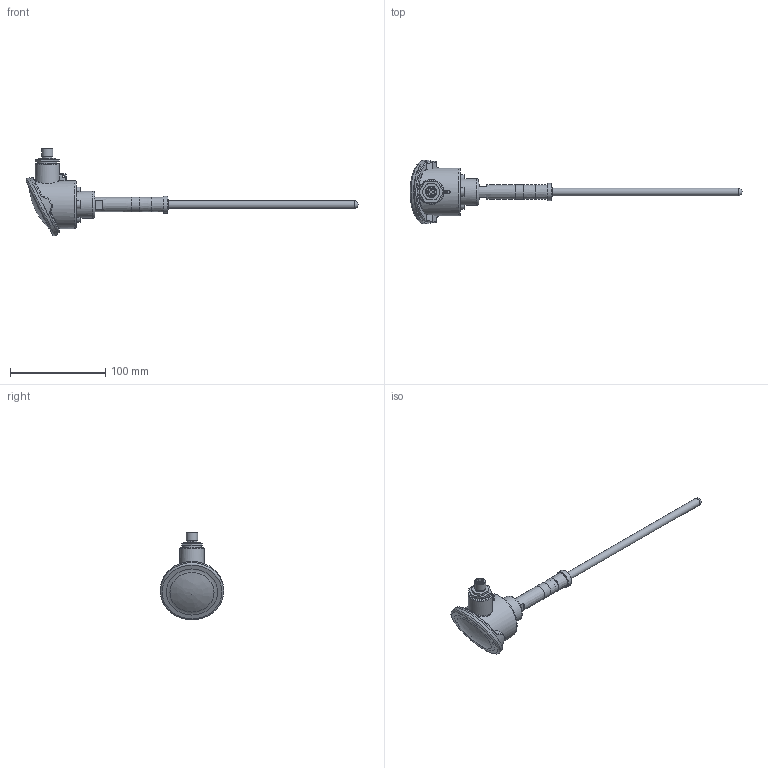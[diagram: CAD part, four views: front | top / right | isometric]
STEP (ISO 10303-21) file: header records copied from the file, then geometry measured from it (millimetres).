
FILE_DESCRIPTION(/* description */ ('Unknown'),/* implementation_level */ '2;1');
FILE_NAME(/* name */ 'TCR6-1120.XXXX.X110.X61X.0200',/* time_stamp */ '2020-07-24T11:47:47+02:00',/* author */ ('Unknown'),/* organization */ ('Unknown'),/* preprocessor_version */ 'ST-DEVELOPER v16.7',/* originating_system */ 'DEX',/* authorisation */ $);
FILE_SCHEMA (('AUTOMOTIVE_DESIGN {1 0 10303 214 3 1 1}'));
Length unit declared in the file: millimetre
Products named in the file (1): Part2
Bounding box: 349.35 x 67 x 92.39 mm (x, y, z)
Volume: 64133.4 mm3; surface area: 46910.9 mm2
Topology: 4 solids, 6 shells, 186 faces, 430 edges, 282 vertices
Faces by surface type: plane 78, cylinder 53, bspline 18, torus 18, cone 14, sphere 5
Full cylindrical faces by diameter (mm): 1.64 x4, 2.5 x1, 6 x1, 7.709 x1, 8 x1, 8.1 x3, 8.5 x1, 9.6 x1, 9.728 x1, 10.5 x1, 11.2 x2, 11.741 x1, 12 x1, 13.1 x2, 13.16 x1, 13.5 x1, 13.8 x1, 14.376 x2, 15.397 x1, 15.5 x1, 18 x1, 20 x1, 21 x1, 25.5 x1, 28.2 x1, 47 x1, 50 x1, 50.5 x1, 64.5 x1, 67 x1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
Entity records: 6514 total; most frequent: CARTESIAN_POINT 2439, DIRECTION 758, ORIENTED_EDGE 652, AXIS2_PLACEMENT_3D 340, EDGE_CURVE 326, FACE_BOUND 291, EDGE_LOOP 288, VERTEX_POINT 247
